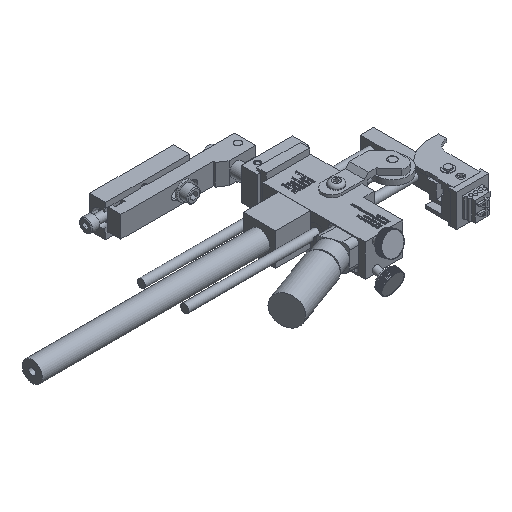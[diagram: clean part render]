
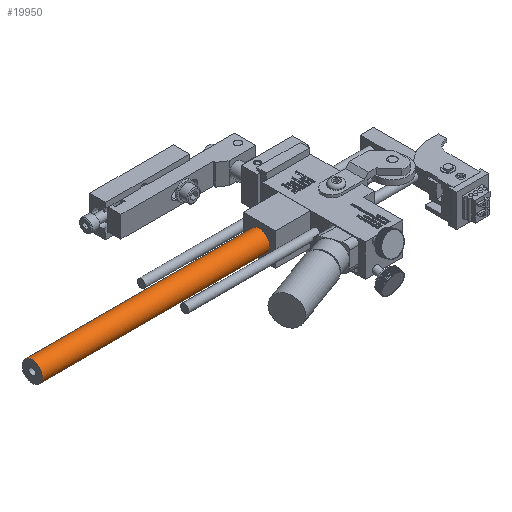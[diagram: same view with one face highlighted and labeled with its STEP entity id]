
A CAD part, isometric view. The second image highlights one B-rep face of the part: STEP entity #19950.
In plain terms, the highlighted cylindrical face has radius 5.969 mm (diameter 11.938 mm), a full revolution.
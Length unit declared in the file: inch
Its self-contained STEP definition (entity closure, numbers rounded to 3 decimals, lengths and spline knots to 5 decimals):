
#19923=CARTESIAN_POINT('',(-1.5015,0.8125,0.375));
#19924=DIRECTION('',(-1.0,0.,0.));
#19925=DIRECTION('',(0.0,0.0,-1.0));
#19926=AXIS2_PLACEMENT_3D('',#19923,#19924,#19925);
#19927=CYLINDRICAL_SURFACE('',#19926,0.235);
#19928=CARTESIAN_POINT('',(-6.7515,0.8125,0.61));
#19929=VERTEX_POINT('',#19928);
#19930=CARTESIAN_POINT('',(-6.7515,0.8125,0.375));
#19931=DIRECTION('',(1.0,0.0,0.0));
#19932=DIRECTION('',(0.0,0.0,-1.0));
#19933=AXIS2_PLACEMENT_3D('',#19930,#19931,#19932);
#19934=CIRCLE('',#19933,0.235);
#19935=EDGE_CURVE('',#19929,#19929,#19934,.T.);
#19936=ORIENTED_EDGE('',*,*,#19935,.T.);
#19937=EDGE_LOOP('',(#19936));
#19938=FACE_OUTER_BOUND('',#19937,.T.);
#19939=CARTESIAN_POINT('',(-1.5015,0.8125,0.61));
#19940=VERTEX_POINT('',#19939);
#19941=CARTESIAN_POINT('',(-1.5015,0.8125,0.375));
#19942=DIRECTION('',(1.0,0.0,0.0));
#19943=DIRECTION('',(0.0,0.0,-1.0));
#19944=AXIS2_PLACEMENT_3D('',#19941,#19942,#19943);
#19945=CIRCLE('',#19944,0.235);
#19946=EDGE_CURVE('',#19940,#19940,#19945,.T.);
#19947=ORIENTED_EDGE('',*,*,#19946,.F.);
#19948=EDGE_LOOP('',(#19947));
#19949=FACE_BOUND('',#19948,.T.);
#19950=ADVANCED_FACE('',(#19938,#19949),#19927,.T.);
